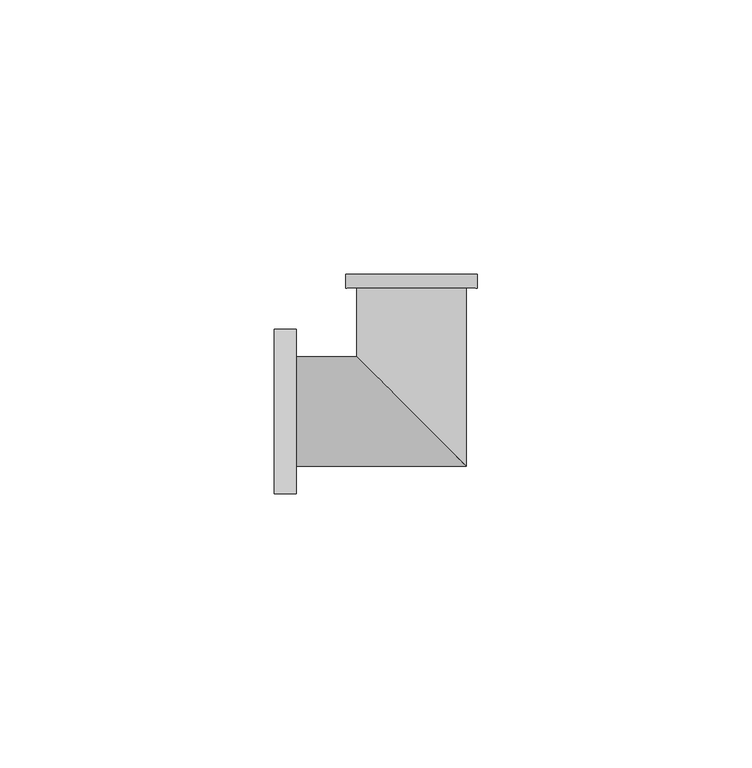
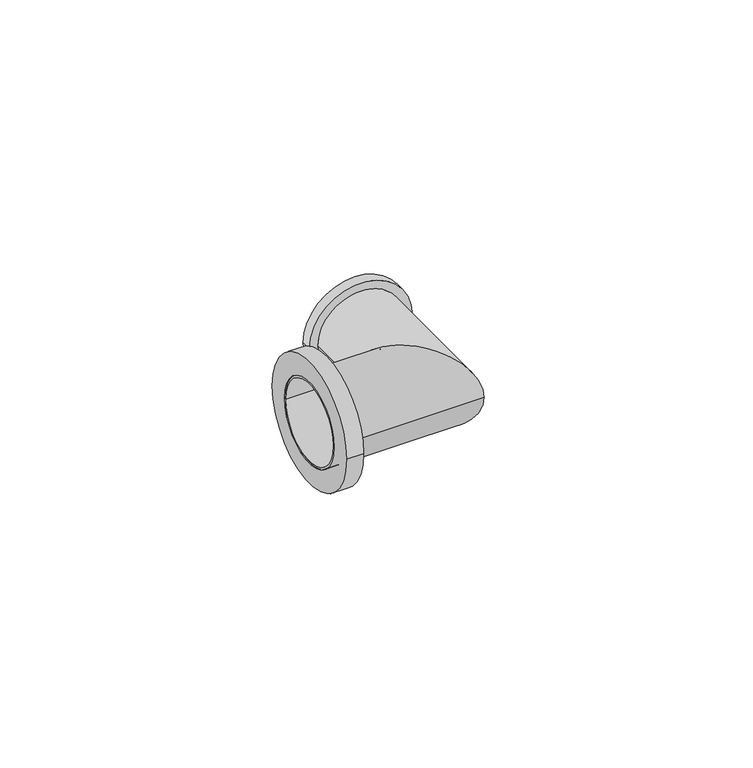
"""IFC4 building model written with IfcOpenShell, lengths in millimetres: pipe fitting geometry, БИР ПЕКС_НПР_Угольник_Резьба_Внутренняя : Угольник с внутренней резьбой."""

from ifc_helpers import new_model, si_unit, point, frame, origin, origin_2d, place, context, project, spatial, polyline, circle_curve, ellipse_curve, trimmed, segment, composite_curve, outline, extrude, source, transform, mapped, element, save
from ifc_brep_helpers import plane_surface, cylinder_surface, revolved_surface, advanced_brep


def pipe_fitting_912674c2(model_context):
    return source(origin(), model_context, "Body", "SolidModel", [
        extrude(outline(composite_curve([segment(trimmed(circle_curve(origin_2d(), 15.0), [point((-15.0, 0.0))], [point((15.0, 0.0))], False, "CARTESIAN"), True, "CONTINUOUS"), segment(trimmed(circle_curve(origin_2d(), 15.0), [point((15.0, 0.0))], [point((-15.0, 0.0))], False, "CARTESIAN"), True, "CONTINUOUS")], self_intersect=False), holes=[composite_curve([segment(trimmed(circle_curve(origin_2d(), 10.0), [point((-10.0, 0.0))], [point((10.0, 0.0))], True, "CARTESIAN"), True, "CONTINUOUS"), segment(trimmed(circle_curve(origin_2d(), 10.0), [point((10.0, 0.0))], [point((-10.0, 0.0))], True, "CARTESIAN"), True, "CONTINUOUS")], self_intersect=False)]), frame((-25.0, 0.0, 0.0), z_axis=(1.0, 0.0, 0.0), x_axis=(0.0, 1.0, 0.0)), (0.0, 0.0, 1.0), 4.0),
        advanced_brep(
        [(-25.0, -10.0, 0.0), (-25.0, 10.0, 0.0), (-25.0, -9.5, 0.0), (-25.0, 9.5, 0.0), (10.0, -10.0, 0.0), (-10.0, 10.0, 0.0), (-12.0, 25.0, 0.0), (12.0, 25.0, 0.0), (9.5, 25.0, 0.0), (-9.5, 25.0, 0.0), (10.0, 22.5, 0.0), (-10.0, 22.5, 0.0), (-12.0, 22.5, 0.0), (12.0, 22.5, 0.0), (9.5, -9.5, 0.0), (-9.5, 9.5, 0.0)],
        [
            (0, 1, circle_curve(frame((-25.0, 0.0, 0.0), z_axis=(-1.0, 0.0, 0.0), x_axis=(0.0, 1.0, 0.0)), 10.0)),
            (1, 0, circle_curve(frame((-25.0, 0.0, 0.0), z_axis=(-1.0, 0.0, 0.0), x_axis=(0.0, 1.0, 0.0)), 10.0)),
            (2, 3, circle_curve(frame((-25.0, 0.0, 0.0), z_axis=(1.0, 0.0, 0.0), x_axis=(0.0, 1.0, 0.0)), 9.5)),
            (3, 2, circle_curve(frame((-25.0, 0.0, 0.0), z_axis=(1.0, 0.0, 0.0), x_axis=(0.0, 1.0, 0.0)), 9.5)),
            (0, 4),
            (4, 5, ellipse_curve(frame((0.0, 0.0, 0.0), z_axis=(-0.7071067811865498, -0.7071067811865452, 0.0), x_axis=(-0.7071067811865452, 0.7071067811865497, 0.0)), 14.1421356, 10.0)),
            (5, 1),
            (5, 4, ellipse_curve(frame((0.0, 0.0, 0.0), z_axis=(-0.7071067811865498, -0.7071067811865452, 0.0), x_axis=(-0.7071067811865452, 0.7071067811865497, 0.0)), 14.1421356, 10.0)),
            (6, 7, circle_curve(frame((0.0, 25.0, 0.0), z_axis=(0.0, 1.0, 0.0), x_axis=(1.0, 0.0, 0.0)), 12.0)),
            (7, 6, circle_curve(frame((0.0, 25.0, 0.0), z_axis=(0.0, 1.0, 0.0), x_axis=(1.0, 0.0, 0.0)), 12.0)),
            (8, 9, circle_curve(frame((0.0, 25.0, 0.0), z_axis=(0.0, -1.0, 0.0), x_axis=(-1.0, 0.0, 0.0)), 9.5)),
            (9, 8, circle_curve(frame((0.0, 25.0, 0.0), z_axis=(0.0, -1.0, 0.0), x_axis=(-1.0, 0.0, 0.0)), 9.5)),
            (4, 10),
            (10, 11, circle_curve(frame((0.0, 22.5, 0.0), z_axis=(0.0, -1.0, 0.0), x_axis=(-1.0, 0.0, 0.0)), 10.0)),
            (11, 5),
            (11, 10, circle_curve(frame((0.0, 22.5, 0.0), z_axis=(0.0, -1.0, 0.0), x_axis=(-1.0, 0.0, 0.0)), 10.0)),
            (12, 13, circle_curve(frame((0.0, 22.5, 0.0), z_axis=(0.0, -1.0, 0.0), x_axis=(1.0, 0.0, 0.0)), 12.0)),
            (13, 12, circle_curve(frame((0.0, 22.5, 0.0), z_axis=(0.0, -1.0, 0.0), x_axis=(1.0, 0.0, 0.0)), 12.0)),
            (12, 6),
            (7, 13),
            (2, 14),
            (14, 15, ellipse_curve(frame((0.0, 0.0, 0.0), z_axis=(0.7071067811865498, 0.7071067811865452, 0.0), x_axis=(0.7071067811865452, -0.7071067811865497, 0.0)), 13.4350288, 9.5)),
            (15, 3),
            (15, 14, ellipse_curve(frame((0.0, 0.0, 0.0), z_axis=(0.7071067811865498, 0.7071067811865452, 0.0), x_axis=(0.7071067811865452, -0.7071067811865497, 0.0)), 13.4350288, 9.5)),
            (9, 15),
            (14, 8),
        ],
        [
            plane_surface(frame((-25.0, 0.0, 0.0), z_axis=(-1.0, 0.0, 0.0), x_axis=(0.0, 0.0, 1.0))),
            cylinder_surface(frame((-25.0, 0.0, 0.0), z_axis=(-1.0, 0.0, 0.0), x_axis=(0.0, 1.0, 0.0)), 10.0),
            plane_surface(frame((0.0, 25.0, 0.0), z_axis=(0.0, 1.0, 0.0), x_axis=(0.0, 0.0, 1.0))),
            cylinder_surface(frame((0.0, 0.0, 0.0), z_axis=(0.0, -1.0, 0.0), x_axis=(-1.0, 0.0, 0.0)), 10.0),
            plane_surface(frame((12.0, 22.5, 0.0), z_axis=(0.0, -1.0, 0.0), x_axis=(0.0, 0.0, 1.0))),
            cylinder_surface(frame((0.0, 25.0, 0.0), z_axis=(0.0, -1.0, 0.0), x_axis=(1.0, 0.0, 0.0)), 12.0),
            revolved_surface(polyline([(9.5, 9.5, 0.0), (-25.0, 9.5, 0.0)]), (-25.0, 0.0, 0.0), (1.0, 0.0, 0.0)),
            revolved_surface(polyline([(-9.5, 25.0, 0.0), (-9.5, -9.5, 0.0)]), (0.0, 0.0, 0.0), (0.0, 1.0, 0.0)),
        ],
        [
            (0, [[1, 2], [3, 4]]),
            (1, [[-1, 5, 6, 7]]),
            (1, [[-2, -7, 8, -5]]),
            (2, [[9, 10], [11, 12]]),
            (3, [[-6, 13, 14, 15]]),
            (3, [[-8, -15, 16, -13]]),
            (4, [[17, 18], [-14, -16]]),
            (5, [[-17, 19, -10, 20]]),
            (5, [[-18, -20, -9, -19]]),
            (6, [[-3, 21, 22, 23]]),
            (6, [[-4, -23, 24, -21]]),
            (7, [[-12, 25, -22, 26]]),
            (7, [[-11, -26, -24, -25]]),
        ],
    ),
    ])


if __name__ == "__main__":
    model = new_model("IFC4")
    model_context = context("Model", 3, world=origin())
    ifc_project = project(units=[si_unit("LENGTHUNIT", "METRE", prefix="MILLI")], contexts=[model_context])
    site = spatial("IfcSite", under=ifc_project)
    building = spatial("IfcBuilding", under=site)
    placement = place(None, origin())
    pipe_fitting_shape = pipe_fitting_912674c2(model_context)
    element("IfcPipeFitting", 1, ObjectType="БИР ПЕКС_НПР_Угольник_Резьба_Внутренняя : Угольник с внутренней резьбой", at=placement, inside=building, context=model_context, shape_type="MappedRepresentation", body=[
        mapped(pipe_fitting_shape, transform((0.0, 0.0, 0.0), x_axis=(1.0, 0.0, 0.0), y_axis=(0.0, 1.0, 0.0), z_axis=(0.0, 0.0, 1.0))),
    ])
    save(model, "model.ifc")
